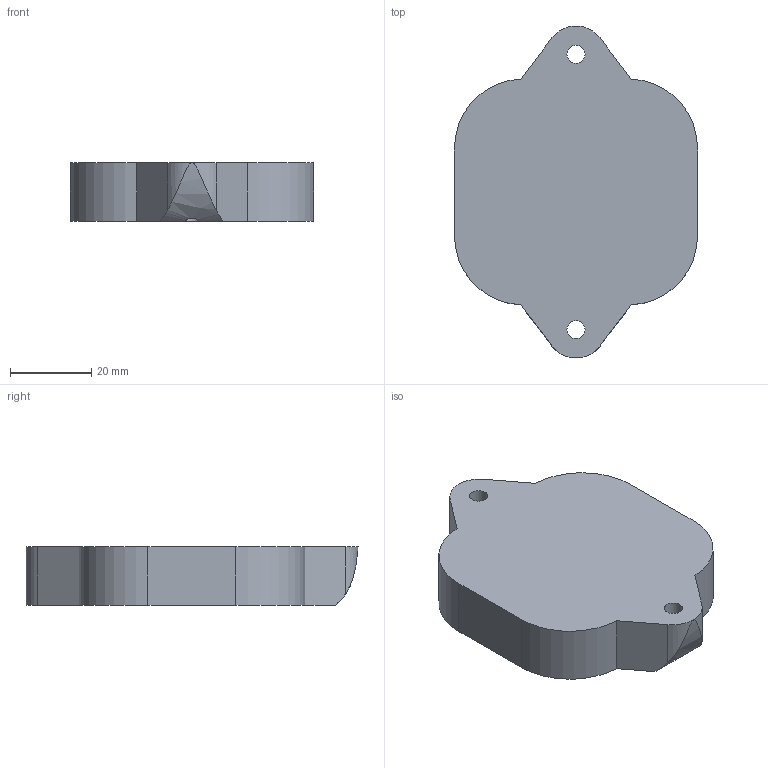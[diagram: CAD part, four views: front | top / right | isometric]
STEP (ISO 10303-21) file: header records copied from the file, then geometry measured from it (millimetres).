
FILE_DESCRIPTION(/* description */ ('Unknown'),/* implementation_level */ '2;1');
FILE_NAME(/* name */ 'AS33 Blcok fr ANN-MB-00 v4.step',/* time_stamp */ '2025-04-02T19:07:52+02:00',/* author */ (''),/* organization */ (''),/* preprocessor_version */ 'ST-DEVELOPER v20.1',/* originating_system */ 'Autodesk Translation Framework v14.4.0.0',/* authorisation */ '');
FILE_SCHEMA (('AUTOMOTIVE_DESIGN { 1 0 10303 214 3 1 1 }'));
Length unit declared in the file: millimetre
Products named in the file (1): ANN-MB-00
Bounding box: 60 x 81.97 x 14.5 mm (x, y, z)
Volume: 50728.2 mm3; surface area: 10654 mm2
Topology: 1 solids, 1 shells, 18 faces, 50 edges, 33 vertices
Faces by surface type: cylinder 9, plane 8, bspline 1
Full cylindrical faces by diameter (mm): 4.5 x2
Entity records: 724 total; most frequent: CARTESIAN_POINT 213, ORIENTED_EDGE 100, DIRECTION 98, EDGE_CURVE 50, AXIS2_PLACEMENT_3D 35, VERTEX_POINT 33, LINE 28, VECTOR 28
